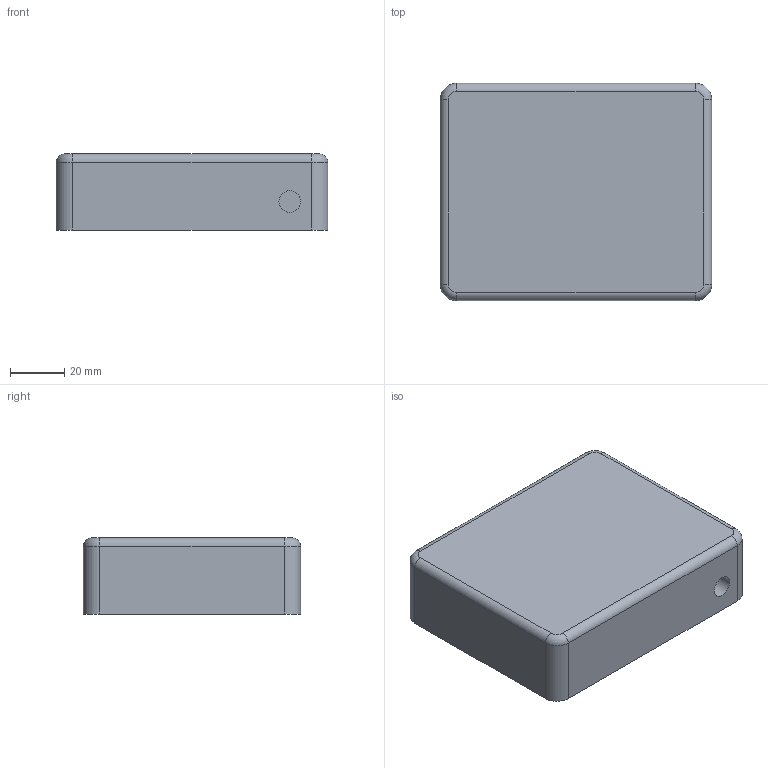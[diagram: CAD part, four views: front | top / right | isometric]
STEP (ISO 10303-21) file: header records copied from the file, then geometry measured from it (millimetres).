
FILE_DESCRIPTION(('Open CASCADE Model'),'2;1');
FILE_NAME('Open CASCADE Shape Model','2026-10-25T11:03:47',('Author'),( 'Open CASCADE'),'Open CASCADE STEP processor 7.9','Open CASCADE 7.9' ,'Unknown');
FILE_SCHEMA(('AUTOMOTIVE_DESIGN { 1 0 10303 214 1 1 1 1 }'));
Length unit declared in the file: millimetre
Products named in the file (1): Open CASCADE STEP translator 7.9 5
Bounding box: 100 x 80 x 28 mm (x, y, z)
Volume: 221684.3 mm3; surface area: 25673.1 mm2
Topology: 1 solids, 1 shells, 27 faces, 58 edges, 36 vertices
Faces by surface type: plane 13, cylinder 10, torus 4
Full cylindrical faces by diameter (mm): 8 x2
Entity records: 1501 total; most frequent: CARTESIAN_POINT 296, DIRECTION 231, LINE 122, VECTOR 122, ORIENTED_EDGE 116, PCURVE 116, DEFINITIONAL_REPRESENTATION 116, EDGE_CURVE 58
